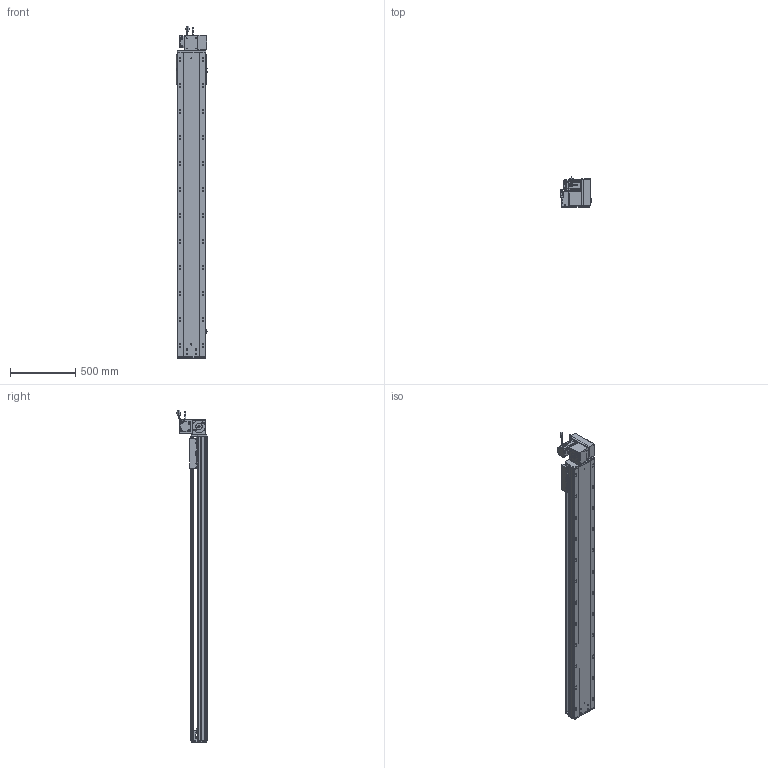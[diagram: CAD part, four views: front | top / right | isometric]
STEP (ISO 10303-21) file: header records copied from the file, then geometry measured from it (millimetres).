
FILE_DESCRIPTION (( 'STEP AP203' ), '1' );
FILE_NAME ('RY220-T-300-UR.SLDASM_2000.step', '2022-07-25T08:44:42', ( '' ), ( '' ), 'SwSTEP 2.0', 'SolidWorks 2016', '' );
FILE_SCHEMA (( 'CONFIG_CONTROL_DESIGN' ));
Length unit declared in the file: millimetre
Products named in the file (14): RY220-俋离672覜茼んえ; 怢湛750W_ECMA-CX0807ES; 覜茼ん672; RY220-同步轮副支撑座6304×2; RY220-T-300-奻裔啣_2000; RY220-T菁釱-300_2000; RY220-T-300-UR.SLDASM_2000; RY220圉猾敕々湍臏賑輸; RY220-T-蛌殏萇儂假蚾啣(750W); 滅袉蝶18-15; RY220-T-湍謫欶(鍼踢); 110A-T-肮祭謫釱傷裔; RY220翋肮祭謫釱; RY220翋肮祭謫裔啣
Assembly tree (18 placements, depth 2):
  RY220-T-300-UR.SLDASM_2000
    RY220-T菁釱-300_2000
    RY220翋肮祭謫釱
    覜茼ん672  x3
    RY220圉猾敕々湍臏賑輸
    RY220-T-300-奻裔啣_2000
    RY220-俋离672覜茼んえ
    滅袉蝶18-15  x3
    RY220翋肮祭謫裔啣  x2
    110A-T-肮祭謫釱傷裔
    怢湛750W_ECMA-CX0807ES
    RY220-T-湍謫欶(鍼踢)
    RY220-T-蛌殏萇儂假蚾啣(750W)
    RY220-同步轮副支撑座6304×2
Bounding box: 238.7 x 231.74 x 2553.27 mm (x, y, z)
Volume: 18733971.1 mm3; surface area: 5689160.3 mm2
Topology: 19 solids, 19 shells, 2822 faces, 7795 edges, 4910 vertices
Faces by surface type: cylinder 1358, plane 1069, cone 313, bspline 56, sphere 16, torus 10
Entity records: 93955 total; most frequent: CARTESIAN_POINT 26627, ORIENTED_EDGE 13946, DIRECTION 13336, EDGE_CURVE 6973, AXIS2_PLACEMENT_3D 4768, VERTEX_POINT 4534, LINE 3800, VECTOR 3800
